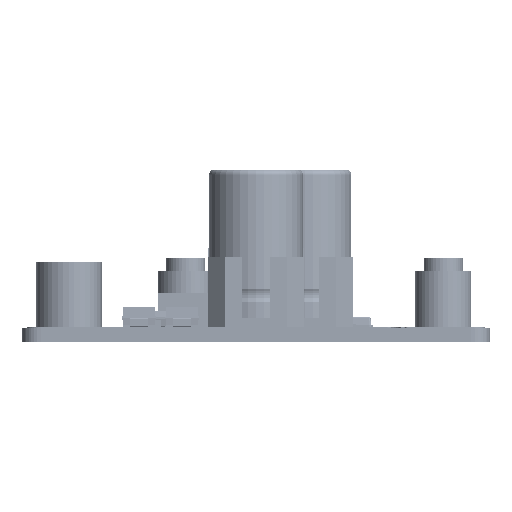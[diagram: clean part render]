
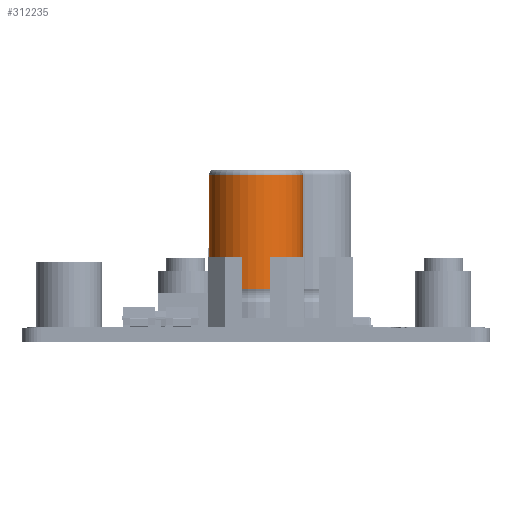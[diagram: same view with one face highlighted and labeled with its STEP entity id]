
A CAD part, left-side view. The second image highlights one B-rep face of the part: STEP entity #312235.
In plain terms, the highlighted cylindrical face has radius 5 mm (diameter 10 mm), a full revolution.
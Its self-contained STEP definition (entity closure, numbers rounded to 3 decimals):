
#1771=CYLINDRICAL_SURFACE('',#329806,5.);
#3764=FACE_OUTER_BOUND('',#20234,.T.);
#20234=EDGE_LOOP('',(#208252,#208253,#208254,#208255,#208256,#208257));
#38446=LINE('',#435738,#82294);
#82294=VECTOR('',#352494,5.);
#124158=CIRCLE('',#329795,5.);
#124159=CIRCLE('',#329796,5.);
#124163=CIRCLE('',#329801,5.);
#124164=CIRCLE('',#329802,5.);
#127745=VERTEX_POINT('',#435716);
#127746=VERTEX_POINT('',#435718);
#127749=VERTEX_POINT('',#435726);
#127750=VERTEX_POINT('',#435728);
#159364=EDGE_CURVE('',#127745,#127746,#124158,.T.);
#159365=EDGE_CURVE('',#127746,#127745,#124159,.T.);
#159369=EDGE_CURVE('',#127750,#127749,#124163,.T.);
#159370=EDGE_CURVE('',#127749,#127750,#124164,.T.);
#159374=EDGE_CURVE('',#127750,#127745,#38446,.T.);
#208252=ORIENTED_EDGE('',*,*,#159369,.T.);
#208253=ORIENTED_EDGE('',*,*,#159370,.T.);
#208254=ORIENTED_EDGE('',*,*,#159374,.T.);
#208255=ORIENTED_EDGE('',*,*,#159365,.F.);
#208256=ORIENTED_EDGE('',*,*,#159364,.F.);
#208257=ORIENTED_EDGE('',*,*,#159374,.F.);
#312235=ADVANCED_FACE('',(#3764),#1771,.T.);
#329795=AXIS2_PLACEMENT_3D('',#435719,#352469,#352470);
#329796=AXIS2_PLACEMENT_3D('',#435720,#352471,#352472);
#329801=AXIS2_PLACEMENT_3D('',#435729,#352481,#352482);
#329802=AXIS2_PLACEMENT_3D('',#435730,#352483,#352484);
#329806=AXIS2_PLACEMENT_3D('',#435737,#352492,#352493);
#352469=DIRECTION('center_axis',(0.,-1.,0.));
#352470=DIRECTION('ref_axis',(1.,0.,0.));
#352471=DIRECTION('center_axis',(0.,-1.,0.));
#352472=DIRECTION('ref_axis',(1.,0.,0.));
#352481=DIRECTION('center_axis',(0.,-1.,0.));
#352482=DIRECTION('ref_axis',(-1.,0.,0.));
#352483=DIRECTION('center_axis',(0.,-1.,0.));
#352484=DIRECTION('ref_axis',(-1.,0.,0.));
#352492=DIRECTION('center_axis',(0.,1.,0.));
#352493=DIRECTION('ref_axis',(1.,0.,0.));
#352494=DIRECTION('',(0.,-1.,0.));
#435716=CARTESIAN_POINT('',(-5.,4.1,0.));
#435718=CARTESIAN_POINT('',(5.,4.1,0.));
#435719=CARTESIAN_POINT('Origin',(0.,4.1,0.));
#435720=CARTESIAN_POINT('Origin',(0.,4.1,0.));
#435726=CARTESIAN_POINT('',(5.,16.3,0.));
#435728=CARTESIAN_POINT('',(-5.,16.3,0.));
#435729=CARTESIAN_POINT('Origin',(0.,16.3,0.));
#435730=CARTESIAN_POINT('Origin',(0.,16.3,0.));
#435737=CARTESIAN_POINT('Origin',(0.,16.8,0.));
#435738=CARTESIAN_POINT('',(-5.,16.8,0.));
